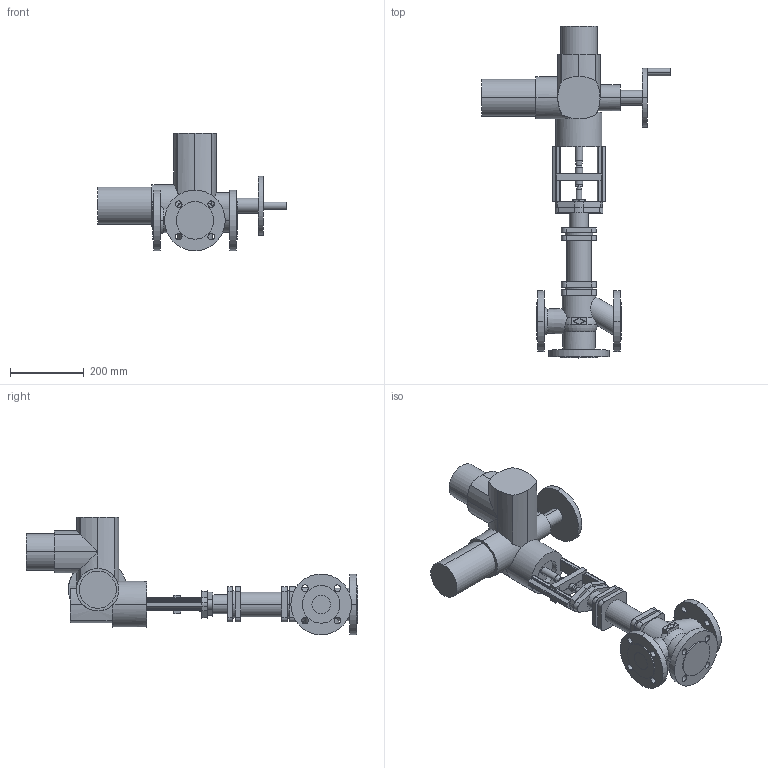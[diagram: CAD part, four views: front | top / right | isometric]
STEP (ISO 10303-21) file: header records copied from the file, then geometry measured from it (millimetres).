
FILE_DESCRIPTION(('OneSpaceDesigner STEP Export'),'2;1');
FILE_NAME('c000003216.stp','2007-01-25T12:02:50',(''),(''),'OneSpace Designer STEP processor for AP214 (Solid Model)','OneSpace Designer 14.00B 27-May-2006 (C) CoCreate Software GmbH','');
FILE_SCHEMA(('AUTOMOTIVE_DESIGN { 1 0 10303 214 1 1 1 1 }'));
Length unit declared in the file: millimetre
Products named in the file (2): 1; 2
Bounding box: 514 x 902.5 x 319.5 mm (x, y, z)
Volume: 12342369.2 mm3; surface area: 771352.4 mm2
Topology: 2 solids, 2 shells, 334 faces, 853 edges, 545 vertices
Faces by surface type: cylinder 162, plane 158, cone 8, torus 6
Entity records: 9983 total; most frequent: CARTESIAN_POINT 2318, ORIENTED_EDGE 1706, DIRECTION 1452, EDGE_CURVE 853, VERTEX_POINT 545, AXIS2_PLACEMENT_3D 495, VECTOR 462, LINE 462
